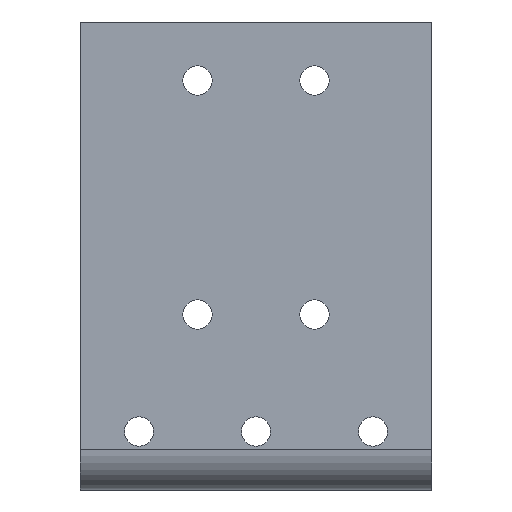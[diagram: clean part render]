
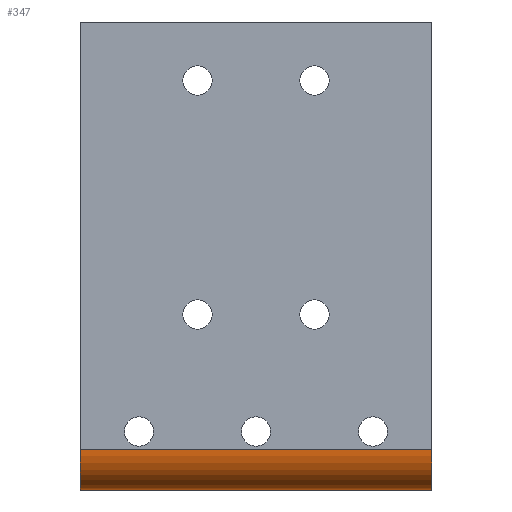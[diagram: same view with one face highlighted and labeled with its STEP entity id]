
A CAD part, front view. The second image highlights one B-rep face of the part: STEP entity #347.
In plain terms, the highlighted cylindrical face has radius 7 mm (diameter 14 mm), a partial arc.
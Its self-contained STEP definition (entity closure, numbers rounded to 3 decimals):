
#45 = DIRECTION ( 'NONE',  ( 0., -1., 0. ) ) ;
#46 = VERTEX_POINT ( 'NONE', #830 ) ;
#55 = AXIS2_PLACEMENT_3D ( 'NONE', #1189, #1309, #45 ) ;
#58 = CARTESIAN_POINT ( 'NONE',  ( -30., -73., -40. ) ) ;
#99 = VECTOR ( 'NONE', #1064, 1000. ) ;
#125 = ORIENTED_EDGE ( 'NONE', *, *, #535, .F. ) ;
#155 = DIRECTION ( 'NONE',  ( 0., -1., 0. ) ) ;
#172 = CARTESIAN_POINT ( 'NONE',  ( 30., -73., -33. ) ) ;
#173 = FACE_OUTER_BOUND ( 'NONE', #1384, .T. ) ;
#224 = VERTEX_POINT ( 'NONE', #58 ) ;
#252 = ORIENTED_EDGE ( 'NONE', *, *, #945, .F. ) ;
#312 = CARTESIAN_POINT ( 'NONE',  ( 0., -73., -33. ) ) ;
#347 = ADVANCED_FACE ( 'NONE', ( #173 ), #765, .T. ) ;
#360 = CARTESIAN_POINT ( 'NONE',  ( 30., -73., -40. ) ) ;
#390 = VECTOR ( 'NONE', #432, 1000. ) ;
#432 = DIRECTION ( 'NONE',  ( -1., 0., 0. ) ) ;
#435 = CIRCLE ( 'NONE', #1346, 7. ) ;
#535 = EDGE_CURVE ( 'NONE', #46, #664, #435, .T. ) ;
#644 = AXIS2_PLACEMENT_3D ( 'NONE', #312, #924, #155 ) ;
#663 = DIRECTION ( 'NONE',  ( 0., -1., 0. ) ) ;
#664 = VERTEX_POINT ( 'NONE', #928 ) ;
#750 = VERTEX_POINT ( 'NONE', #1261 ) ;
#765 = CYLINDRICAL_SURFACE ( 'NONE', #644, 7. ) ;
#830 = CARTESIAN_POINT ( 'NONE',  ( 30., -80., -33. ) ) ;
#863 = LINE ( 'NONE', #360, #99 ) ;
#915 = EDGE_CURVE ( 'NONE', #750, #224, #1123, .T. ) ;
#924 = DIRECTION ( 'NONE',  ( 1., 0., 0. ) ) ;
#928 = CARTESIAN_POINT ( 'NONE',  ( 30., -73., -40. ) ) ;
#945 = EDGE_CURVE ( 'NONE', #664, #224, #863, .T. ) ;
#995 = EDGE_CURVE ( 'NONE', #46, #750, #1434, .T. ) ;
#1064 = DIRECTION ( 'NONE',  ( -1., 0., 0. ) ) ;
#1123 = CIRCLE ( 'NONE', #55, 7. ) ;
#1189 = CARTESIAN_POINT ( 'NONE',  ( -30., -73., -33. ) ) ;
#1255 = ORIENTED_EDGE ( 'NONE', *, *, #995, .T. ) ;
#1261 = CARTESIAN_POINT ( 'NONE',  ( -30., -80., -33. ) ) ;
#1309 = DIRECTION ( 'NONE',  ( 1., 0., 0. ) ) ;
#1315 = CARTESIAN_POINT ( 'NONE',  ( 0., -80., -33. ) ) ;
#1346 = AXIS2_PLACEMENT_3D ( 'NONE', #172, #1419, #663 ) ;
#1384 = EDGE_LOOP ( 'NONE', ( #1255, #1409, #252, #125 ) ) ;
#1409 = ORIENTED_EDGE ( 'NONE', *, *, #915, .T. ) ;
#1419 = DIRECTION ( 'NONE',  ( 1., 0., 0. ) ) ;
#1434 = LINE ( 'NONE', #1315, #390 ) ;
